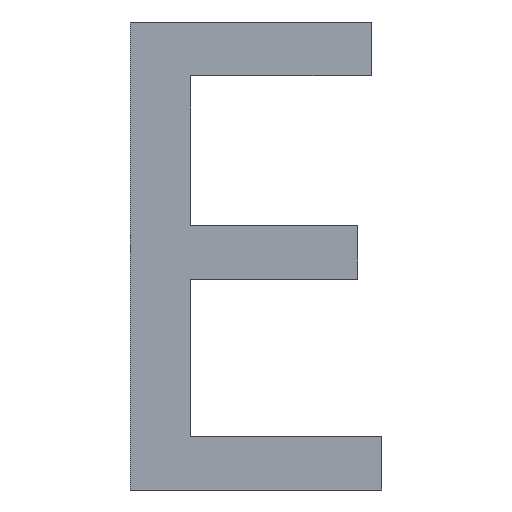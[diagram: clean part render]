
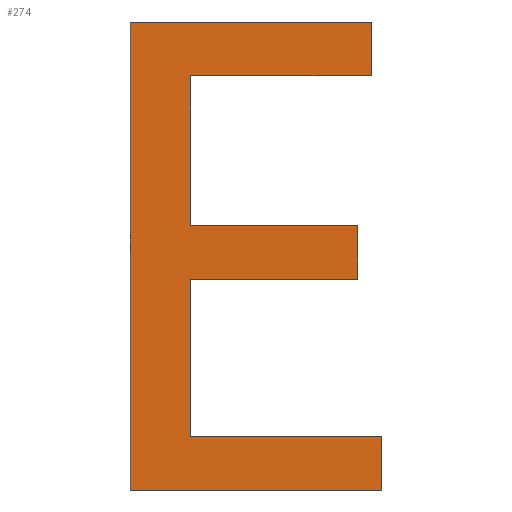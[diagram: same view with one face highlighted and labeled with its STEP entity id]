
A CAD part, front view. The second image highlights one B-rep face of the part: STEP entity #274.
In plain terms, the highlighted planar face has unit normal (0, -1, 0).
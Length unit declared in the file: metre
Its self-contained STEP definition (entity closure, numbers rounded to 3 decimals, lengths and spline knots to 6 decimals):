
#24=ORIENTED_EDGE('',*,*,#96,.T.);
#25=ORIENTED_EDGE('',*,*,#97,.T.);
#26=ORIENTED_EDGE('',*,*,#98,.T.);
#27=ORIENTED_EDGE('',*,*,#99,.T.);
#28=ORIENTED_EDGE('',*,*,#100,.T.);
#29=ORIENTED_EDGE('',*,*,#101,.T.);
#30=ORIENTED_EDGE('',*,*,#102,.T.);
#31=ORIENTED_EDGE('',*,*,#103,.T.);
#32=ORIENTED_EDGE('',*,*,#104,.T.);
#33=ORIENTED_EDGE('',*,*,#105,.T.);
#34=ORIENTED_EDGE('',*,*,#106,.T.);
#35=ORIENTED_EDGE('',*,*,#107,.T.);
#96=EDGE_CURVE('',#132,#133,#156,.T.);
#97=EDGE_CURVE('',#133,#134,#157,.T.);
#98=EDGE_CURVE('',#134,#135,#158,.T.);
#99=EDGE_CURVE('',#135,#136,#159,.T.);
#100=EDGE_CURVE('',#136,#137,#160,.T.);
#101=EDGE_CURVE('',#137,#138,#161,.T.);
#102=EDGE_CURVE('',#138,#139,#162,.T.);
#103=EDGE_CURVE('',#139,#140,#163,.T.);
#104=EDGE_CURVE('',#140,#141,#164,.T.);
#105=EDGE_CURVE('',#141,#142,#165,.T.);
#106=EDGE_CURVE('',#142,#143,#166,.T.);
#107=EDGE_CURVE('',#143,#132,#167,.T.);
#132=VERTEX_POINT('',#492);
#133=VERTEX_POINT('',#493);
#134=VERTEX_POINT('',#495);
#135=VERTEX_POINT('',#497);
#136=VERTEX_POINT('',#499);
#137=VERTEX_POINT('',#501);
#138=VERTEX_POINT('',#503);
#139=VERTEX_POINT('',#505);
#140=VERTEX_POINT('',#507);
#141=VERTEX_POINT('',#509);
#142=VERTEX_POINT('',#511);
#143=VERTEX_POINT('',#513);
#156=LINE('',#491,#192);
#157=LINE('',#494,#193);
#158=LINE('',#496,#194);
#159=LINE('',#498,#195);
#160=LINE('',#500,#196);
#161=LINE('',#502,#197);
#162=LINE('',#504,#198);
#163=LINE('',#506,#199);
#164=LINE('',#508,#200);
#165=LINE('',#510,#201);
#166=LINE('',#512,#202);
#167=LINE('',#514,#203);
#192=VECTOR('',#416,1.);
#193=VECTOR('',#417,1.);
#194=VECTOR('',#418,1.);
#195=VECTOR('',#419,1.);
#196=VECTOR('',#420,1.);
#197=VECTOR('',#421,1.);
#198=VECTOR('',#422,1.);
#199=VECTOR('',#423,1.);
#200=VECTOR('',#424,1.);
#201=VECTOR('',#425,1.);
#202=VECTOR('',#426,1.);
#203=VECTOR('',#427,1.);
#217=EDGE_LOOP('',(#24,#25,#26,#27,#28,#29,#30,#31,#32,#33,#34,#35));
#231=FACE_BOUND('',#217,.T.);
#245=PLANE('',#385);
#274=ADVANCED_FACE('',(#231),#245,.F.);
#385=AXIS2_PLACEMENT_3D('',#490,#414,#415);
#414=DIRECTION('',(0.,1.,0.));
#415=DIRECTION('',(0.,0.,-1.));
#416=DIRECTION('',(0.,0.,1.));
#417=DIRECTION('',(-1.,0.,0.));
#418=DIRECTION('',(0.,0.,1.));
#419=DIRECTION('',(1.,0.,0.));
#420=DIRECTION('',(0.,0.,1.));
#421=DIRECTION('',(-1.,0.,0.));
#422=DIRECTION('',(0.,0.,1.));
#423=DIRECTION('',(1.,0.,0.));
#424=DIRECTION('',(0.,0.,1.));
#425=DIRECTION('',(-1.,0.,0.));
#426=DIRECTION('',(0.,0.,-1.));
#427=DIRECTION('',(1.,0.,0.));
#490=CARTESIAN_POINT('',(-0.142414,-0.023259,0.01));
#491=CARTESIAN_POINT('',(-0.144615,-0.023259,0.012162));
#492=CARTESIAN_POINT('',(-0.144615,-0.023259,0.01214));
#493=CARTESIAN_POINT('',(-0.144615,-0.023259,0.012162));
#494=CARTESIAN_POINT('',(-0.144695,-0.023259,0.012162));
#495=CARTESIAN_POINT('',(-0.144695,-0.023259,0.012162));
#496=CARTESIAN_POINT('',(-0.144695,-0.023259,0.012228));
#497=CARTESIAN_POINT('',(-0.144695,-0.023259,0.012228));
#498=CARTESIAN_POINT('',(-0.144625,-0.023259,0.012228));
#499=CARTESIAN_POINT('',(-0.144625,-0.023259,0.012228));
#500=CARTESIAN_POINT('',(-0.144625,-0.023259,0.01225));
#501=CARTESIAN_POINT('',(-0.144625,-0.023259,0.01225));
#502=CARTESIAN_POINT('',(-0.144695,-0.023259,0.01225));
#503=CARTESIAN_POINT('',(-0.144695,-0.023259,0.01225));
#504=CARTESIAN_POINT('',(-0.144695,-0.023259,0.012312));
#505=CARTESIAN_POINT('',(-0.144695,-0.023259,0.012312));
#506=CARTESIAN_POINT('',(-0.144619,-0.023259,0.012312));
#507=CARTESIAN_POINT('',(-0.144619,-0.023259,0.012312));
#508=CARTESIAN_POINT('',(-0.144619,-0.023259,0.012335));
#509=CARTESIAN_POINT('',(-0.144619,-0.023259,0.012335));
#510=CARTESIAN_POINT('',(-0.14472,-0.023259,0.012335));
#511=CARTESIAN_POINT('',(-0.14472,-0.023259,0.012335));
#512=CARTESIAN_POINT('',(-0.14472,-0.023259,0.01214));
#513=CARTESIAN_POINT('',(-0.14472,-0.023259,0.01214));
#514=CARTESIAN_POINT('',(-0.144615,-0.023259,0.01214));
